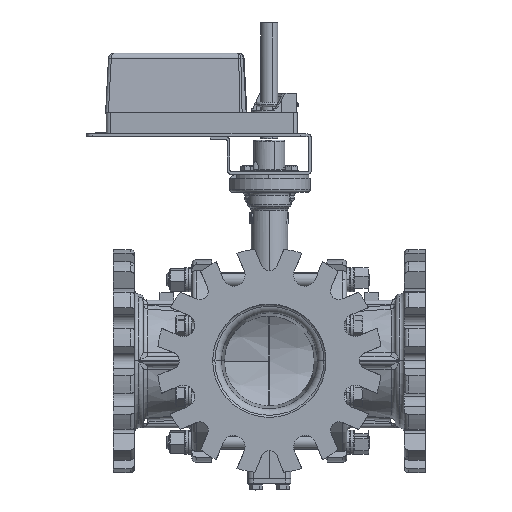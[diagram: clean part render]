
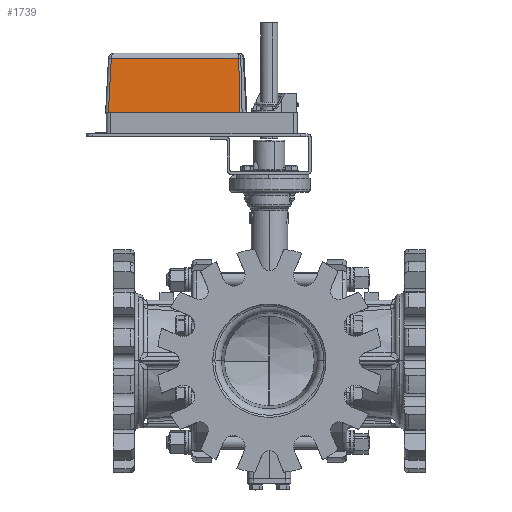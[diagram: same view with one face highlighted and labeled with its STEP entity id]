
A CAD part, top view. The second image highlights one B-rep face of the part: STEP entity #1739.
In plain terms, the highlighted planar face has unit normal (0, 0.052, 0.999).
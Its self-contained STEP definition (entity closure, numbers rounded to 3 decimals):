
#275 = AXIS2_PLACEMENT_3D ( 'NONE', #36906, #85284, #2604 ) ;
#1739 = ADVANCED_FACE ( 'NONE', ( #29604 ), #57468, .T. ) ;
#2604 = DIRECTION ( 'NONE',  ( 0., -0.999, 0.052 ) ) ;
#5222 = CARTESIAN_POINT ( 'NONE',  ( -181.403, 341.721, 63.449 ) ) ;
#8410 = VECTOR ( 'NONE', #70740, 1000. ) ;
#8769 = EDGE_CURVE ( 'NONE', #41617, #59069, #89571, .T. ) ;
#12434 = DIRECTION ( 'NONE',  ( -0.052, -0.997, 0.052 ) ) ;
#12914 = CARTESIAN_POINT ( 'NONE',  ( -178.548, 341.721, 63.449 ) ) ;
#15998 = DIRECTION ( 'NONE',  ( 1., 0., 0. ) ) ;
#22493 = ORIENTED_EDGE ( 'NONE', *, *, #24915, .T. ) ;
#23818 = ORIENTED_EDGE ( 'NONE', *, *, #40991, .T. ) ;
#24915 = EDGE_CURVE ( 'NONE', #59069, #54841, #85394, .T. ) ;
#26259 = LINE ( 'NONE', #5222, #48457 ) ;
#29604 = FACE_OUTER_BOUND ( 'NONE', #71728, .T. ) ;
#30385 = VECTOR ( 'NONE', #12434, 1000. ) ;
#36906 = CARTESIAN_POINT ( 'NONE',  ( -184.944, 280.175, 66.675 ) ) ;
#40991 = EDGE_CURVE ( 'NONE', #54841, #80755, #78045, .T. ) ;
#41617 = VERTEX_POINT ( 'NONE', #12914 ) ;
#46832 = DIRECTION ( 'NONE',  ( -1., 0., 0. ) ) ;
#48048 = CARTESIAN_POINT ( 'NONE',  ( -181.782, 280.009, 66.684 ) ) ;
#48457 = VECTOR ( 'NONE', #46832, 1000. ) ;
#50704 = CARTESIAN_POINT ( 'NONE',  ( -181.773, 280.175, 66.675 ) ) ;
#54841 = VERTEX_POINT ( 'NONE', #55697 ) ;
#55697 = CARTESIAN_POINT ( 'NONE',  ( -33.174, 280.175, 66.675 ) ) ;
#57468 = PLANE ( 'NONE',  #275 ) ;
#59069 = VERTEX_POINT ( 'NONE', #50704 ) ;
#60551 = ORIENTED_EDGE ( 'NONE', *, *, #8769, .T. ) ;
#70740 = DIRECTION ( 'NONE',  ( -0.024, 0.998, -0.052 ) ) ;
#71621 = CARTESIAN_POINT ( 'NONE',  ( -33.258, 283.736, 66.488 ) ) ;
#71728 = EDGE_LOOP ( 'NONE', ( #22493, #23818, #80394, #60551 ) ) ;
#71974 = VECTOR ( 'NONE', #15998, 1000. ) ;
#72717 = EDGE_CURVE ( 'NONE', #80755, #41617, #26259, .T. ) ;
#78045 = LINE ( 'NONE', #71621, #8410 ) ;
#78553 = CARTESIAN_POINT ( 'NONE',  ( -184.944, 280.175, 66.675 ) ) ;
#80394 = ORIENTED_EDGE ( 'NONE', *, *, #72717, .T. ) ;
#80755 = VERTEX_POINT ( 'NONE', #82852 ) ;
#82852 = CARTESIAN_POINT ( 'NONE',  ( -34.623, 341.721, 63.449 ) ) ;
#85284 = DIRECTION ( 'NONE',  ( 0., 0.052, 0.999 ) ) ;
#85394 = LINE ( 'NONE', #78553, #71974 ) ;
#89571 = LINE ( 'NONE', #48048, #30385 ) ;
